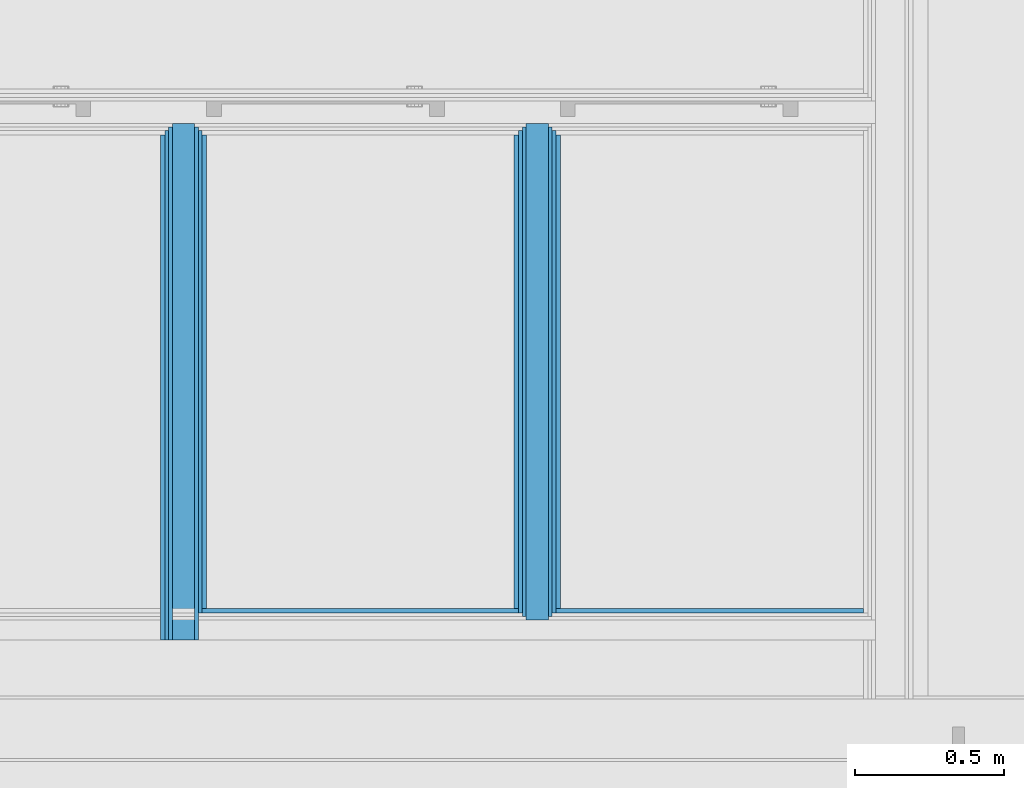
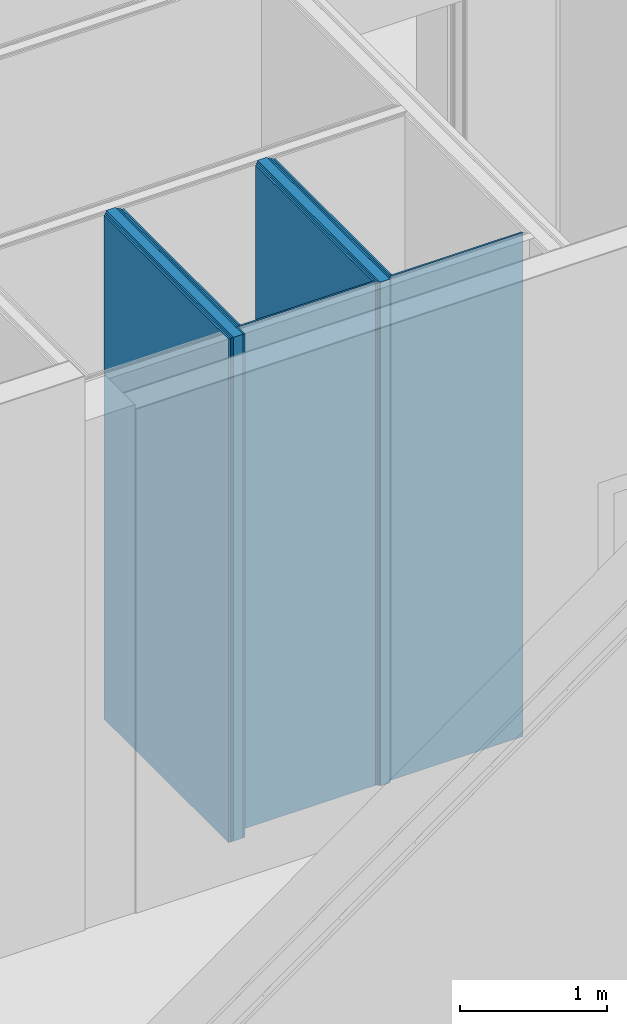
# One storey, part 200 of 260: 15 building element parts, 3 elements without a shape of their own.
"""IFC2X3 building model written with IfcOpenShell, lengths in millimetres."""

from ifc_helpers import new_model, entity, si_unit, converted_unit, derived_unit, money_unit, direction, frame, origin_with_axes, place, context, subcontext, project, spatial, faceted_brep, material, type_object, element, aggregate, save


model = new_model("IFC2X3")

# Units and contexts
model_context = context("Model", 3, precision=0.01, world=origin_with_axes(), true_north=direction((0.0, 1.0)))
body_context = subcontext(model_context, "Body", "Model", "MODEL_VIEW")
ifc_project = project(units=[si_unit("LENGTHUNIT", "METRE", prefix="MILLI"), si_unit("AREAUNIT", "SQUARE_METRE"), si_unit("VOLUMEUNIT", "CUBIC_METRE"), converted_unit("PLANEANGLEUNIT", "DEGREE", entity("IfcPlaneAngleMeasure", 0.0174532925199), si_unit("PLANEANGLEUNIT", "RADIAN"), dimensions=[0, 0, 0, 0, 0, 0, 0]), money_unit("EUR"), converted_unit("TIMEUNIT", "Year", entity("IfcTimeMeasure", 31556926.0), si_unit("TIMEUNIT", "SECOND"), dimensions=[0, 0, 1, 0, 0, 0, 0]), si_unit("MASSUNIT", "GRAM", prefix="KILO"), si_unit("THERMODYNAMICTEMPERATUREUNIT", "DEGREE_CELSIUS"), si_unit("LUMINOUSINTENSITYUNIT", "LUMEN"), si_unit("ENERGYUNIT", "JOULE", prefix="MEGA"), derived_unit("THERMALCONDUCTANCEUNIT", [(si_unit("POWERUNIT", "WATT"), 1), (si_unit("LENGTHUNIT", "METRE"), -1), (si_unit("THERMODYNAMICTEMPERATUREUNIT", "KELVIN"), -1)]), derived_unit("SPECIFICHEATCAPACITYUNIT", [(si_unit("ENERGYUNIT", "JOULE"), 1), (si_unit("MASSUNIT", "GRAM", prefix="KILO"), -1), (si_unit("THERMODYNAMICTEMPERATUREUNIT", "KELVIN"), -1)]), derived_unit("MASSDENSITYUNIT", [(si_unit("MASSUNIT", "GRAM", prefix="KILO"), 1), (si_unit("VOLUMEUNIT", "CUBIC_METRE"), -1)])], contexts=[model_context])

# Site, building, storey
site_placement = place(None, origin_with_axes())
site = spatial("IfcSite", under=ifc_project, at=site_placement, Name="Kolde pst 67a", CompositionType="ELEMENT")
building_placement = place(site_placement, origin_with_axes())
building = spatial("IfcBuilding", under=site, at=building_placement, Name="Riigigümnaasium", CompositionType="ELEMENT")
storey_placement = place(building_placement, origin_with_axes())
storey = spatial("IfcBuildingStorey", under=building, at=storey_placement, Name="1. korrus", CompositionType="ELEMENT", Elevation=0.0)

# Wall, building element part
wall_type_1 = type_object("IfcWallType", Name="SS-MK-66/3_šahti sein+plaat 106", PredefinedType="NOTDEFINED")
wall_1_placement = place(storey_placement, frame((73479.99953, 11204.9619407, 0.0), z_axis=(0.0, 0.0, 1.0), x_axis=(-1.0, 0.0, 0.0)))
wall_1 = element("IfcWall", 1, at=wall_1_placement, inside=storey, type_object=wall_type_1, Name="Varisein")
ifc_material_1 = material(Name="_VIIMISTLUSKIHT - viimistlus vastavalt SA osale")
building_element_part_1_placement = place(wall_1_placement, origin_with_axes())
building_element_part_1 = element("IfcBuildingElementPart", 2, at=building_element_part_1_placement, material=ifc_material_1, Name="_VIIMISTLUSKIHT - viimistlus vastavalt SA osale", context=body_context, shape_type="Brep", body=[
    faceted_brep([(1035.00132069, 0.0, 0.0), (0.0, 0.0, 0.0), (0.0, 15.0, 0.0), (1035.00133314, 15.0, 0.0), (1035.00132069, 0.0, 4185.0), (0.0, 0.0, 4185.0), (0.0, 15.0, 4185.0), (1035.00133314, 15.0, 4185.0)], [[[0, 1, 2, 3]], [[4, 5, 1, 0]], [[2, 1, 5, 6]], [[3, 2, 6, 7]], [[3, 7, 4, 0]], [[7, 6, 5, 4]]]),
    faceted_brep([(2225.00132069, 0.0, 0.0), (1160.00132069, 0.0, 0.0), (1160.00133314, 15.0, 0.0), (2225.00133314, 15.0, 0.0), (2225.00132069, 0.0, 4185.0), (1160.00132069, 0.0, 4185.0), (1160.00133314, 15.0, 4185.0), (2225.00133314, 15.0, 4185.0)], [[[0, 1, 2, 3]], [[4, 5, 1, 0]], [[2, 1, 5, 6]], [[3, 2, 6, 7]], [[3, 7, 4, 0]], [[7, 6, 5, 4]]]),
])
aggregate(wall_1, [building_element_part_1])

# Wall, building element parts
wall_type_2 = type_object("IfcWallType", Name="SS-MK-7,5/1_plaaditud 155", PredefinedType="NOTDEFINED")
wall_2_placement = place(storey_placement, frame((72459.99953, 12796.8961605, 0.0), z_axis=(0.0, 0.0, 1.0), x_axis=(-8.29614480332e-07, -1.0, 0.0)))
wall_2 = element("IfcWall", 3, at=wall_2_placement, inside=storey, type_object=wall_type_2, Name="Sisesein")
building_element_part_2_placement = place(wall_2_placement, origin_with_axes())
building_element_part_2 = element("IfcBuildingElementPart", 4, at=building_element_part_2_placement, material=ifc_material_1, Name="_VIIMISTLUSKIHT - viimistlus vastavalt SA osale", context=body_context, shape_type="Brep", body=[
    faceted_brep([(0.000897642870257, -15.0000001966, 4185.0), (0.000885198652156, 3.64991592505e-07, 4185.0), (0.000885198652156, 0.0, 0.0), (0.00089764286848, -15.0, 0.0), (1591.93421978, 2.90573609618e-06, 4185.0), (1591.9342209, -15.0000014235, 4185.0), (1591.93421978, 0.0, 0.0), (1591.93423222, -15.0, 0.0)], [[[0, 1, 2, 3]], [[4, 1, 0, 5]], [[1, 4, 6, 2]], [[2, 6, 7, 3]], [[5, 0, 3, 7]], [[4, 5, 7, 6]]]),
])
ifc_material_2 = material(Name="_PLAATMATERJAL - kipsplaat veekindel")
building_element_part_3_placement = place(wall_2_placement, origin_with_axes())
building_element_part_3 = element("IfcBuildingElementPart", 5, at=building_element_part_3_placement, material=ifc_material_2, Name="_PLAATMATERJAL - kipsplaat veekindel", context=body_context, shape_type="Brep", body=[
    faceted_brep([(-14.999091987, -27.5, 4185.0), (-14.9991023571, -15.000000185, 4185.0), (-14.9991023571, -15.0, 0.0), (-14.999091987, -27.5, 0.0), (1591.93421978, -15.0000015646, 4185.0), (1591.93421978, -27.5, 4185.0), (1606.93424259, -27.5, 4185.0), (1606.93423222, -15.0000015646, 4185.0), (1606.93423222, -15.0, 0.0), (1606.93424259, -27.5, 0.0)], [[[0, 1, 2, 3]], [[4, 1, 0, 5, 6, 7]], [[1, 4, 7, 8, 2]], [[2, 8, 9, 3]], [[5, 0, 3, 9, 6]], [[9, 8, 7, 6]]]),
])
building_element_part_4_placement = place(wall_2_placement, origin_with_axes())
building_element_part_4 = element("IfcBuildingElementPart", 6, at=building_element_part_4_placement, material=ifc_material_2, Name="_PLAATMATERJAL - kipsplaat veekindel", context=body_context, shape_type="Brep", body=[
    faceted_brep([(-27.4990816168, -40.0000003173, 4185.0), (-27.499091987, -27.5, 4185.0), (-27.499091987, -27.5, 0.0), (-27.4990816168, -40.0, 0.0), (1591.93421978, -27.5, 4185.0), (1591.93421978, -40.0000028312, 4185.0), (1619.43425296, -40.0000028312, 4185.0), (1619.43424259, -27.5, 4185.0), (1619.43424259, -27.5, 0.0), (1619.43425296, -40.0, 0.0)], [[[0, 1, 2, 3]], [[4, 1, 0, 5, 6, 7]], [[1, 4, 7, 8, 2]], [[2, 8, 9, 3]], [[5, 0, 3, 9, 6]], [[9, 8, 7, 6]]]),
])
ifc_material_3 = material(Name="_KARKASS - metallkarkass CW 75/50, mineraalvill karkassi vahel")
building_element_part_5_placement = place(wall_2_placement, origin_with_axes())
building_element_part_5 = element("IfcBuildingElementPart", 7, at=building_element_part_5_placement, material=ifc_material_3, Name="_KARKASS - metallkarkass CW 75/50, mineraalvill karkassi vahel", context=body_context, shape_type="Brep", body=[
    faceted_brep([(-39.9990193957, -115.000000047, 4185.0), (-39.9990816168, -40.0000002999, 4185.0), (-39.9990816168, -40.0, 0.0), (-39.9990193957, -115.0, 0.0), (1591.93421978, -40.0000028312, 4185.0), (1591.93421978, -115.000000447, 4185.0), (1631.93431518, -115.000000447, 4185.0), (1631.93425296, -40.0000028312, 4185.0), (1631.93425296, -40.0, 0.0), (1631.93431518, -115.0, 0.0)], [[[0, 1, 2, 3]], [[4, 1, 0, 5, 6, 7]], [[1, 4, 7, 8, 2]], [[2, 8, 9, 3]], [[5, 0, 3, 9, 6]], [[9, 8, 7, 6]]]),
])
building_element_part_6_placement = place(wall_2_placement, origin_with_axes())
building_element_part_6 = element("IfcBuildingElementPart", 8, at=building_element_part_6_placement, material=ifc_material_2, Name="_PLAATMATERJAL - kipsplaat veekindel", context=body_context, shape_type="Brep", body=[
    faceted_brep([(-27.4990090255, -127.5, 4185.0), (-27.4990193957, -115.00000005, 4185.0), (-27.4990193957, -115.0, 0.0), (-27.4990090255, -127.5, 0.0), (1591.93421978, -115.000000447, 4185.0), (1591.93421978, -127.5, 4185.0), (1619.43432555, -127.5, 4185.0), (1619.43431518, -115.000000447, 4185.0), (1619.43431518, -115.0, 0.0), (1619.43432555, -127.5, 0.0)], [[[0, 1, 2, 3]], [[4, 1, 0, 5, 6, 7]], [[1, 4, 7, 8, 2]], [[2, 8, 9, 3]], [[5, 0, 3, 9, 6]], [[9, 8, 7, 6]]]),
])
building_element_part_7_placement = place(wall_2_placement, origin_with_axes())
building_element_part_7 = element("IfcBuildingElementPart", 9, at=building_element_part_7_placement, material=ifc_material_2, Name="_PLAATMATERJAL - kipsplaat veekindel", context=body_context, shape_type="Brep", body=[
    faceted_brep([(-14.9989986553, -140.000000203, 4185.0), (-14.9990090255, -127.5, 4185.0), (-14.9990090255, -127.5, 0.0), (-14.9989986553, -140.0, 0.0), (1591.93421978, -127.5, 4185.0), (1591.93421978, -140.000001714, 4185.0), (1606.93433592, -140.000001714, 4185.0), (1606.93432555, -127.5, 4185.0), (1606.93432555, -127.5, 0.0), (1606.93433592, -140.0, 0.0)], [[[0, 1, 2, 3]], [[4, 1, 0, 5, 6, 7]], [[1, 4, 7, 8, 2]], [[2, 8, 9, 3]], [[5, 0, 3, 9, 6]], [[9, 8, 7, 6]]]),
])
building_element_part_8_placement = place(wall_2_placement, origin_with_axes())
building_element_part_8 = element("IfcBuildingElementPart", 10, at=building_element_part_8_placement, material=ifc_material_1, Name="_VIIMISTLUSKIHT - viimistlus vastavalt SA osale", context=body_context, shape_type="Brep", body=[
    faceted_brep([(0.00101378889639, -155.0, 4185.0), (0.00100134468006, -140.000000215, 4185.0), (0.00100134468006, -140.0, 0.0), (0.00101378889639, -155.0, 0.0), (1591.93423026, -140.000001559, 4185.0), (1591.93434837, -155.0, 4185.0), (1591.93433592, -140.0, 0.0), (1591.93434837, -155.0, 0.0)], [[[0, 1, 2, 3]], [[4, 1, 0, 5]], [[1, 4, 6, 2]], [[2, 6, 7, 3]], [[5, 0, 3, 7]], [[4, 5, 7, 6]]]),
])
aggregate(wall_2, [building_element_part_2, building_element_part_3, building_element_part_4, building_element_part_5, building_element_part_6, building_element_part_7, building_element_part_8])

wall_3_placement = place(storey_placement, frame((71269.99953, 12796.8961605, 0.0), z_axis=(0.0, 0.0, 1.0), x_axis=(-8.29614480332e-07, -1.0, 0.0)))
wall_3 = element("IfcWall", 11, at=wall_3_placement, inside=storey, type_object=wall_type_2, Name="Sisesein")
building_element_part_9_placement = place(wall_3_placement, origin_with_axes())
building_element_part_9 = element("IfcBuildingElementPart", 12, at=building_element_part_9_placement, material=ifc_material_1, Name="_VIIMISTLUSKIHT - viimistlus vastavalt SA osale", context=body_context, shape_type="Brep", body=[
    faceted_brep([(0.000897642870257, -15.0000001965, 4185.0), (0.000885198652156, 3.64991592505e-07, 4185.0), (0.000885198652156, 0.0, 0.0), (0.000897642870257, -15.0, 0.0), (1591.93421978, 2.90573609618e-06, 4185.0), (1591.9342209, -15.0000014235, 4185.0), (1591.93421978, 0.0, 0.0), (1591.93423222, -15.0, 0.0)], [[[0, 1, 2, 3]], [[4, 1, 0, 5]], [[1, 4, 6, 2]], [[2, 6, 7, 3]], [[5, 0, 3, 7]], [[4, 5, 7, 6]]]),
])
building_element_part_10_placement = place(wall_3_placement, origin_with_axes())
building_element_part_10 = element("IfcBuildingElementPart", 13, at=building_element_part_10_placement, material=ifc_material_2, Name="_PLAATMATERJAL - kipsplaat veekindel", context=body_context, shape_type="Brep", body=[
    faceted_brep([(-14.999091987, -27.5, 4185.0), (-14.9991023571, -15.000000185, 4185.0), (-14.9991023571, -15.0, 0.0), (-14.999091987, -27.5, 0.0), (1591.93421978, -15.0000015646, 4185.0), (1591.93421978, -27.5, 4185.0), (1606.93424259, -27.5, 4185.0), (1606.93423222, -15.0000015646, 4185.0), (1606.93423222, -15.0, 0.0), (1606.93424259, -27.5, 0.0)], [[[0, 1, 2, 3]], [[4, 1, 0, 5, 6, 7]], [[1, 4, 7, 8, 2]], [[2, 8, 9, 3]], [[5, 0, 3, 9, 6]], [[9, 8, 7, 6]]]),
])
building_element_part_11_placement = place(wall_3_placement, origin_with_axes())
building_element_part_11 = element("IfcBuildingElementPart", 14, at=building_element_part_11_placement, material=ifc_material_2, Name="_PLAATMATERJAL - kipsplaat veekindel", context=body_context, shape_type="Brep", body=[
    faceted_brep([(-27.4990816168, -40.0000003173, 4185.0), (-27.499091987, -27.5, 4185.0), (-27.499091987, -27.5, 0.0), (-27.4990816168, -40.0, 0.0), (1591.93421978, -27.5, 4185.0), (1591.93421978, -40.0000028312, 4185.0), (1697.93425989, -40.0000028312, 4185.0), (1697.93424952, -27.5, 4185.0), (1697.93424952, -27.5, 0.0), (1697.93425989, -40.0, 0.0)], [[[0, 1, 2, 3]], [[4, 1, 0, 5, 6, 7]], [[1, 4, 7, 8, 2]], [[3, 2, 8, 9]], [[5, 0, 3, 9, 6]], [[9, 8, 7, 6]]]),
])
building_element_part_12_placement = place(wall_3_placement, origin_with_axes())
building_element_part_12 = element("IfcBuildingElementPart", 15, at=building_element_part_12_placement, material=ifc_material_3, Name="_KARKASS - metallkarkass CW 75/50, mineraalvill karkassi vahel", context=body_context, shape_type="Brep", body=[
    faceted_brep([(-39.9990193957, -115.000000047, 4185.0), (-39.9990816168, -40.0000002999, 4185.0), (-39.9990816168, -40.0, 0.0), (-39.9990193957, -115.0, 0.0), (1591.93421978, -40.0000028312, 4185.0), (1591.93421978, -115.000000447, 4185.0), (1697.93432211, -115.000000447, 4185.0), (1697.93425989, -40.0000028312, 4185.0), (1697.93425989, -40.0, 0.0), (1697.93432211, -115.0, 0.0)], [[[0, 1, 2, 3]], [[4, 1, 0, 5, 6, 7]], [[1, 4, 7, 8, 2]], [[2, 8, 9, 3]], [[5, 0, 3, 9, 6]], [[8, 7, 6, 9]]]),
])
building_element_part_13_placement = place(wall_3_placement, origin_with_axes())
building_element_part_13 = element("IfcBuildingElementPart", 16, at=building_element_part_13_placement, material=ifc_material_2, Name="_PLAATMATERJAL - kipsplaat veekindel", context=body_context, shape_type="Brep", body=[
    faceted_brep([(-27.4990090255, -127.5, 4185.0), (-27.4990193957, -115.00000005, 4185.0), (-27.4990193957, -115.0, 0.0), (-27.4990090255, -127.5, 0.0), (1591.93421978, -115.000000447, 4185.0), (1591.93421978, -127.5, 4185.0), (1697.93433248, -127.5, 4185.0), (1697.93432211, -115.000000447, 4185.0), (1697.93432211, -115.0, 0.0), (1697.93433248, -127.5, 0.0)], [[[0, 1, 2, 3]], [[4, 1, 0, 5, 6, 7]], [[1, 4, 7, 8, 2]], [[2, 8, 9, 3]], [[5, 0, 3, 9, 6]], [[8, 7, 6, 9]]]),
])
building_element_part_14_placement = place(wall_3_placement, origin_with_axes())
building_element_part_14 = element("IfcBuildingElementPart", 17, at=building_element_part_14_placement, material=ifc_material_2, Name="_PLAATMATERJAL - kipsplaat veekindel", context=body_context, shape_type="Brep", body=[
    faceted_brep([(-14.9989986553, -140.000000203, 4185.0), (-14.9990090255, -127.5, 4185.0), (-14.9990090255, -127.5, 0.0), (-14.9989986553, -140.0, 0.0), (1591.93421978, -127.5, 4185.0), (1591.93421978, -140.000001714, 4185.0), (1697.93434285, -140.000001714, 4185.0), (1697.93433248, -127.5, 4185.0), (1697.93433248, -127.5, 0.0), (1697.93434285, -140.0, 0.0)], [[[0, 1, 2, 3]], [[4, 1, 0, 5, 6, 7]], [[1, 4, 7, 8, 2]], [[2, 8, 9, 3]], [[5, 0, 3, 9, 6]], [[8, 7, 6, 9]]]),
])
building_element_part_15_placement = place(wall_3_placement, origin_with_axes())
building_element_part_15 = element("IfcBuildingElementPart", 18, at=building_element_part_15_placement, material=ifc_material_1, Name="_VIIMISTLUSKIHT - viimistlus vastavalt SA osale", context=body_context, shape_type="Brep", body=[
    faceted_brep([(0.00101378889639, -155.0, 4185.0), (0.00100134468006, -140.000000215, 4185.0), (0.00100134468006, -140.0, 0.0), (0.00101378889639, -155.0, 0.0), (1591.93421978, -140.000001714, 4185.0), (1591.93421978, -155.0, 4185.0), (1697.9343553, -155.0, 4185.0), (1697.93434285, -140.000001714, 4185.0), (1697.93434285, -140.0, 0.0), (1697.9343553, -155.0, 0.0)], [[[0, 1, 2, 3]], [[4, 1, 0, 5, 6, 7]], [[1, 4, 7, 8, 2]], [[2, 8, 9, 3]], [[5, 0, 3, 9, 6]], [[8, 7, 6, 9]]]),
])
aggregate(wall_3, [building_element_part_9, building_element_part_10, building_element_part_11, building_element_part_12, building_element_part_13, building_element_part_14, building_element_part_15])

save(model, "model.ifc")
